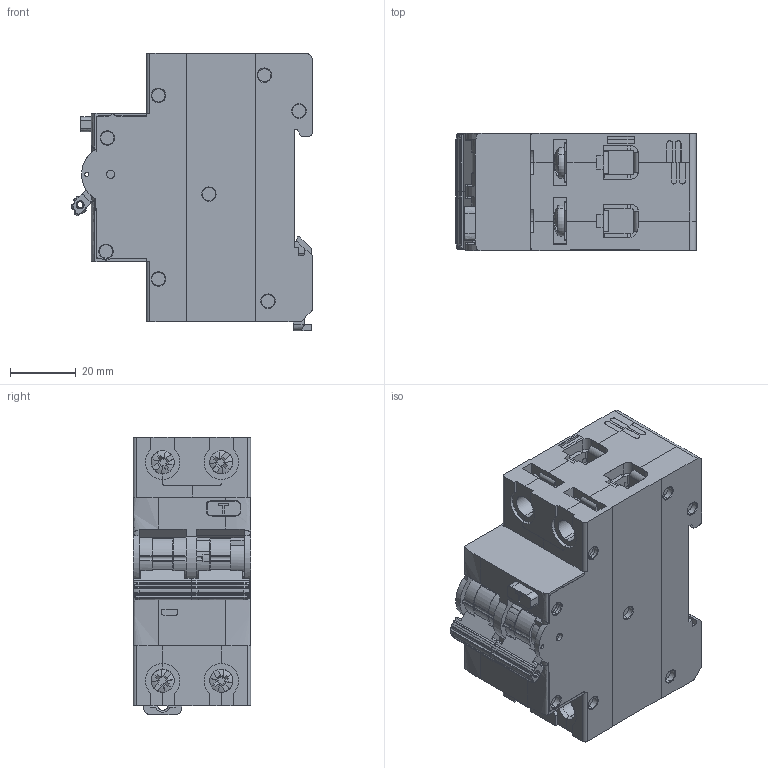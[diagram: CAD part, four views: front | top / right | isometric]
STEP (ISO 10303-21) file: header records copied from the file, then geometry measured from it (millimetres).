
FILE_DESCRIPTION (( 'STEP AP214' ), '1' );
FILE_NAME ('RCBO.STEP', '2026-07-06T08:40:13', ( '' ), ( '' ), 'SwSTEP 2.0', 'SolidWorks 2022', '' );
FILE_SCHEMA (( 'AUTOMOTIVE_DESIGN' ));
Length unit declared in the file: millimetre
Products named in the file (1): RCBO
Bounding box: 72.89 x 35.6 x 84.25 mm (x, y, z)
Volume: 151086.3 mm3; surface area: 46729.4 mm2
Topology: 1 solids, 11 shells, 2378 faces, 6963 edges, 4539 vertices
Faces by surface type: plane 1587, cylinder 521, bspline 121, cone 85, torus 56, sphere 8
Entity records: 112661 total; most frequent: CARTESIAN_POINT 26583, ORIENTED_EDGE 13906, DIRECTION 11997, EDGE_CURVE 6953, VECTOR 4847, LINE 4847, VERTEX_POINT 4538, AXIS2_PLACEMENT_3D 3575
